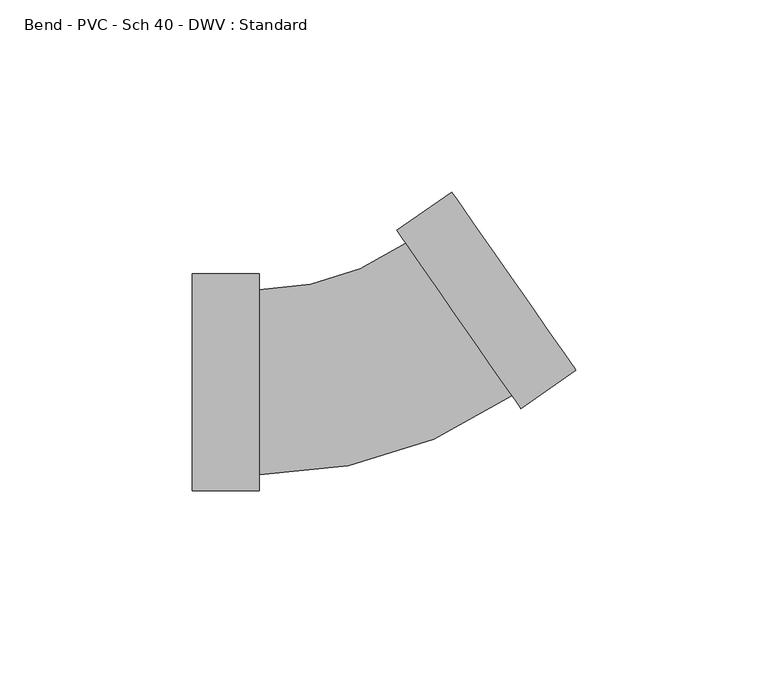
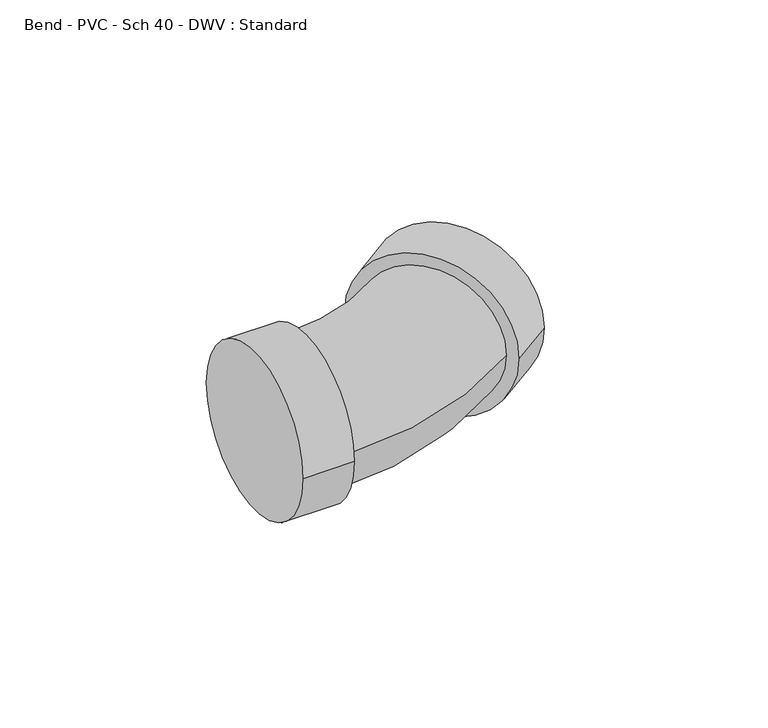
"""IFC4 building model written with IfcOpenShell, lengths in millimetres: pipe fitting geometry, Bend - PVC - Sch 40 - DWV : Standard."""

import ifcopenshell
import ifcopenshell.guid

model = None  # the IFC model being written
_history = None  # IfcOwnerHistory: only IFC2X3 demands one
_inside = {}  # id of a spatial element -> (the spatial element, [elements in it])
_under = {}  # id of a project, library or spatial element -> (it, [spatial elements below it])
_declared = {}  # id of a project -> (the project, [libraries it declares])
_typed = {}  # id of a type object -> (the type object, [elements of that type])
_made_of = {}  # id of a material, layer set ... -> (it, [elements and type objects made of it])


def new_model(schema):
    """Start an empty IFC model of exactly this schema.

    Asked for "IFC4X3", IfcOpenShell would pick the latest addendum, in which some entities
    have other attributes; the version numbers below select the first issue.
    IFC2X3 requires an IfcOwnerHistory on every rooted entity: one is made here for all.
    """
    global model, _history
    if schema == "IFC4X3":
        model = ifcopenshell.file(schema_version=(4, 3, 0, 0))
    else:
        model = ifcopenshell.file(schema=schema)
    _inside.clear()
    _under.clear()
    _declared.clear()
    _typed.clear()
    _made_of.clear()
    _history = None
    if model.schema == "IFC2X3":
        org = make("IfcOrganization", Name="unknown")
        user = make(
            "IfcPersonAndOrganization",
            ThePerson=make("IfcPerson", FamilyName="unknown"),
            TheOrganization=org,
        )
        app = make(
            "IfcApplication",
            ApplicationDeveloper=org,
            Version="unknown",
            ApplicationFullName="unknown",
            ApplicationIdentifier="unknown",
        )
        _history = make(
            "IfcOwnerHistory",
            OwningUser=user,
            OwningApplication=app,
            ChangeAction="ADDED",
            CreationDate=0,
        )
    return model


def make(cls, **values):
    """One entity of the class cls with the attributes given. An attribute that is None is left unset."""
    return model.create_entity(
        cls, **{name: value for name, value in values.items() if value is not None}
    )


def rooted(cls, **values):
    """An entity with a GlobalId (a new one), such as an element, a storey or a relation."""
    return make(cls, GlobalId=ifcopenshell.guid.new(), OwnerHistory=_history, **values)


def si_unit(unit_type, name, prefix=None):
    """IfcSIUnit, for example si_unit("LENGTHUNIT", "METRE", prefix="MILLI")."""
    return make("IfcSIUnit", UnitType=unit_type, Prefix=prefix, Name=name)


def assignment(units):
    """IfcUnitAssignment: the units of a project."""
    return None if units is None else make("IfcUnitAssignment", Units=units)


def point(xyz):
    """IfcCartesianPoint."""
    return None if xyz is None else make("IfcCartesianPoint", Coordinates=xyz)


def direction(xyz):
    """IfcDirection."""
    return None if xyz is None else make("IfcDirection", DirectionRatios=xyz)


def frame(location, z_axis=None, x_axis=None):
    """IfcAxis2Placement3D, a coordinate frame: its origin and axes. An axis left out is left unset."""
    return make(
        "IfcAxis2Placement3D",
        Location=point(location),
        Axis=direction(z_axis),
        RefDirection=direction(x_axis),
    )


def origin():
    """The frame at (0, 0, 0) with its axes left unset."""
    return frame((0.0, 0.0, 0.0))


def place(relative_to, where):
    """IfcLocalPlacement: puts the frame where relative to a parent placement (None: the world)."""
    return make(
        "IfcLocalPlacement", PlacementRelTo=relative_to, RelativePlacement=where
    )


def context(
    kind, dimensions, precision=None, world=None, true_north=None, identifier=None
):
    """IfcGeometricRepresentationContext, for example the 3D "Model" context."""
    return make(
        "IfcGeometricRepresentationContext",
        ContextIdentifier=identifier,
        ContextType=kind,
        CoordinateSpaceDimension=dimensions,
        Precision=precision,
        WorldCoordinateSystem=world,
        TrueNorth=true_north,
    )


def project(units=None, contexts=None):
    """IfcProject with its units and contexts."""
    return rooted(
        "IfcProject",
        Name="project",
        RepresentationContexts=contexts,
        UnitsInContext=assignment(units),
    )


def spatial(cls, under=None, at=None, **own):
    """A site, building, storey or space (cls), placed at a placement, below another one or the project."""
    s = rooted(cls, ObjectPlacement=at, **own)
    if under is not None:
        _under.setdefault(under.id(), (under, []))[1].append(s)
    return s


def circle_curve(where, radius):
    """IfcCircle in the frame where."""
    return make("IfcCircle", Position=where, Radius=radius)


def ellipse_curve(where, semi_axis1, semi_axis2):
    """IfcEllipse in the frame where."""
    return make(
        "IfcEllipse", Position=where, SemiAxis1=semi_axis1, SemiAxis2=semi_axis2
    )


def trimmed(basis, trim1, trim2, sense, master):
    """IfcTrimmedCurve: the piece of a basis curve between two trims."""
    return make(
        "IfcTrimmedCurve",
        BasisCurve=basis,
        Trim1=trim1,
        Trim2=trim2,
        SenseAgreement=sense,
        MasterRepresentation=master,
    )


def shape(context_of_items, identifier, shape_type, items):
    """IfcShapeRepresentation: the items that make up one representation, for example the "Body"."""
    return make(
        "IfcShapeRepresentation",
        ContextOfItems=context_of_items,
        RepresentationIdentifier=identifier,
        RepresentationType=shape_type,
        Items=items,
    )


def source(mapping_origin, context_of_items, identifier, shape_type, items):
    """IfcRepresentationMap: a shape defined once, which mapped items show again and again."""
    return make(
        "IfcRepresentationMap",
        MappingOrigin=mapping_origin,
        MappedRepresentation=shape(context_of_items, identifier, shape_type, items),
    )


def transform(
    local_origin,
    x_axis=None,
    y_axis=None,
    z_axis=None,
    scale=None,
    scale2=None,
    scale3=None,
    uniform=True,
):
    """IfcCartesianTransformationOperator3D, or its non-uniform kind. x_axis, y_axis, z_axis: its Axis1, 2, 3."""
    if uniform:
        return make(
            "IfcCartesianTransformationOperator3D",
            Axis1=direction(x_axis),
            Axis2=direction(y_axis),
            LocalOrigin=point(local_origin),
            Scale=scale,
            Axis3=direction(z_axis),
        )
    return make(
        "IfcCartesianTransformationOperator3DnonUniform",
        Axis1=direction(x_axis),
        Axis2=direction(y_axis),
        LocalOrigin=point(local_origin),
        Scale=scale,
        Axis3=direction(z_axis),
        Scale2=scale2,
        Scale3=scale3,
    )


def mapped(mapping_source, mapping_target):
    """IfcMappedItem: shows the shape of a source again, moved by a transform."""
    return make(
        "IfcMappedItem", MappingSource=mapping_source, MappingTarget=mapping_target
    )


def made_of(thing, what):
    """Note that an element or type object is made of a material, layer set ...; save() writes the relation."""
    if what is not None:
        _made_of.setdefault(what.id(), (what, []))[1].append(thing)
    return thing


def element(
    cls,
    number,
    at=None,
    inside=None,
    cuts=None,
    type_object=None,
    material=None,
    context=None,
    identifier="Body",
    shape_type=None,
    held_by="IfcProductDefinitionShape",
    body=None,
    shapes=None,
    **own,
):
    """One element of the class cls, such as IfcWall. Its Tag is "e" and its number.

    at: its placement. inside: the storey or other place that contains it. cuts: it is an
    opening in that element (IfcRelVoidsElement). A single representation is given by context,
    identifier, shape_type and body (its items); several are given by shapes. held_by: the class
    of the entity that holds the representations. save() writes the other relations.
    """
    e = rooted(cls, Tag="e%d" % number, ObjectPlacement=at, **own)
    if body is not None:
        shapes = [shape(context, identifier, shape_type, body)]
    if shapes is not None:
        e.Representation = make(held_by, Representations=shapes)
    if inside is not None:
        _inside.setdefault(inside.id(), (inside, []))[1].append(e)
    if cuts is not None:
        rooted(
            "IfcRelVoidsElement", RelatingBuildingElement=cuts, RelatedOpeningElement=e
        )
    if type_object is not None:
        _typed.setdefault(type_object.id(), (type_object, []))[1].append(e)
    return made_of(e, material)


def aggregate(whole, parts):
    """IfcRelAggregates: a whole, such as a stair, and the parts it consists of."""
    return rooted("IfcRelAggregates", RelatingObject=whole, RelatedObjects=parts)


def save(model, path):
    """Write the relations noted so far, then the file.

    IfcRelAggregates (storeys below a building ...), IfcRelContainedInSpatialStructure (elements
    in a storey), IfcRelDefinesByType, IfcRelAssociatesMaterial and IfcRelDeclares: one each for
    every whole, place, type object, material and project.
    """
    for whole, parts in _under.values():
        aggregate(whole, parts)
    for where, things in _inside.values():
        rooted(
            "IfcRelContainedInSpatialStructure",
            RelatedElements=things,
            RelatingStructure=where,
        )
    for kind, things in _typed.values():
        rooted("IfcRelDefinesByType", RelatedObjects=things, RelatingType=kind)
    for what, things in _made_of.values():
        rooted("IfcRelAssociatesMaterial", RelatedObjects=things, RelatingMaterial=what)
    for by, libraries in _declared.values():
        rooted("IfcRelDeclares", RelatingContext=by, RelatedDefinitions=libraries)
    model.write(path)


def plane_surface(at):
    """IfcPlane: the flat surface through the origin of the frame at, square to its z axis."""
    return make("IfcPlane", Position=at)


def cylinder_surface(at, radius):
    """IfcCylindricalSurface: all points at the distance radius from the z axis of the frame at."""
    return make("IfcCylindricalSurface", Position=at, Radius=radius)


def revolved_surface(curve, axis_point, axis_direction):
    """IfcSurfaceOfRevolution: the curve turned about the line through axis_point along axis_direction."""
    return make(
        "IfcSurfaceOfRevolution",
        SweptCurve=make("IfcArbitraryOpenProfileDef", ProfileType="CURVE", Curve=curve),
        AxisPosition=make("IfcAxis1Placement", Location=point(axis_point), Axis=direction(axis_direction)),
    )


def advanced_brep(points, edges, surfaces, faces):
    """IfcAdvancedBrep: a solid bounded by faces that lie on surfaces and meet in shared edges.

    An edge is (start, end): straight between two places in points (the first is 0);
    or (start, end, curve); or (start, end, curve, False) where it runs against its curve.
    A face is (place in surfaces, loops), or (place, loops, False) where it looks against
    its surface's normal. A loop lists edges by number (the first is 1), with a minus sign
    where the edge is run from its end to its start. The first loop is the outer one.
    """
    corners = [point(p) for p in points]
    vertices = [make("IfcVertexPoint", VertexGeometry=c) for c in corners]
    made = []
    for start, end, *more in edges:
        made.append(
            make(
                "IfcEdgeCurve",
                EdgeStart=vertices[start],
                EdgeEnd=vertices[end],
                EdgeGeometry=more[0] if more else make("IfcPolyline", Points=[corners[start], corners[end]]),
                SameSense=more[1] if len(more) > 1 else True,
            )
        )
    hull = []
    for where, loops, *sense in faces:
        bounds = []
        for j, loop in enumerate(loops):
            ring = [make("IfcOrientedEdge", EdgeElement=made[abs(k) - 1], Orientation=k > 0) for k in loop]
            bounds.append(
                make(
                    "IfcFaceOuterBound" if j == 0 else "IfcFaceBound",
                    Bound=make("IfcEdgeLoop", EdgeList=ring),
                    Orientation=True,
                )
            )
        hull.append(make("IfcAdvancedFace", Bounds=bounds, FaceSurface=surfaces[where], SameSense=sense[0] if sense else True))
    return make("IfcAdvancedBrep", Outer=make("IfcClosedShell", CfsFaces=hull))


def bend_pvc_sch_40_dwv_standard_cc7cb89c(model_context):
    return source(origin(), model_context, "Body", "AdvancedBrep", [
        advanced_brep(
        [(-46.0248, -28.2829, 0.0), (-46.0248, 28.2829, 0.0), (-28.575, -28.2829, 0.0), (-28.575, 28.2829, 0.0), (-28.575, -24.13, 0.0), (-28.575, 24.13, 0.0), (9.6517344, 36.1335239, 0.0), (37.2396395, -3.4636362, 0.0), (39.6136513, -6.8710761, 0.0), (7.2777225, 39.5409637, 0.0), (53.9311508, 3.1041296, 0.0), (21.595222, 49.5161694, 0.0)],
        [
            (0, 1, circle_curve(frame((-46.0248, 0.0, 0.0), z_axis=(-1.0, 0.0, 0.0), x_axis=(0.0, 1.0, 0.0)), 28.2829)),
            (1, 0, circle_curve(frame((-46.0248, 0.0, 0.0), z_axis=(-1.0, 0.0, 0.0), x_axis=(0.0, 1.0, 0.0)), 28.2829)),
            (2, 3, circle_curve(frame((-28.575, 0.0, 0.0), z_axis=(1.0, 0.0, 0.0), x_axis=(0.0, 1.0, 0.0)), 28.2829)),
            (3, 2, circle_curve(frame((-28.575, 0.0, 0.0), z_axis=(1.0, 0.0, 0.0), x_axis=(0.0, 1.0, 0.0)), 28.2829)),
            (4, 5, circle_curve(frame((-28.575, 0.0, 0.0), z_axis=(-1.0, 0.0, 0.0), x_axis=(0.0, 1.0, 0.0)), 24.13)),
            (5, 4, circle_curve(frame((-28.575, 0.0, 0.0), z_axis=(-1.0, 0.0, 0.0), x_axis=(0.0, 1.0, 0.0)), 24.13)),
            (0, 2),
            (3, 1),
            (6, 5, circle_curve(frame((-28.575, 91.0006882, 0.0), z_axis=(0.0, 0.0, -1.0), x_axis=(0.0, -1.0, 0.0)), 66.8706882)),
            (4, 7, circle_curve(frame((-28.575, 91.0006882, 0.0), z_axis=(0.0, 0.0, 1.0), x_axis=(0.0, -1.0, 0.0)), 115.1306882)),
            (7, 6, circle_curve(frame((23.4456869, 16.3349438, 0.0), z_axis=(-0.8204964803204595, -0.5716515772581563, 0.0), x_axis=(-0.5716515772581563, 0.8204964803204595, 0.0)), 24.13)),
            (6, 7, circle_curve(frame((23.4456869, 16.3349438, 0.0), z_axis=(-0.8204964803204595, -0.5716515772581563, 0.0), x_axis=(-0.5716515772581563, 0.8204964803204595, 0.0)), 24.13)),
            (8, 9, circle_curve(frame((23.4456869, 16.3349438, 0.0), z_axis=(-0.8204964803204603, -0.5716515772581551, 0.0), x_axis=(-0.5716515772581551, 0.8204964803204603, 0.0)), 28.2829)),
            (9, 8, circle_curve(frame((23.4456869, 16.3349438, 0.0), z_axis=(-0.8204964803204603, -0.5716515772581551, 0.0), x_axis=(-0.5716515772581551, 0.8204964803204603, 0.0)), 28.2829)),
            (10, 11, circle_curve(frame((37.7631864, 26.3101495, 0.0), z_axis=(0.8204964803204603, 0.5716515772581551, 0.0), x_axis=(-0.5716515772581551, 0.8204964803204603, 0.0)), 28.2829)),
            (11, 10, circle_curve(frame((37.7631864, 26.3101495, 0.0), z_axis=(0.8204964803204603, 0.5716515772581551, 0.0), x_axis=(-0.5716515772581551, 0.8204964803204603, 0.0)), 28.2829)),
            (8, 10),
            (11, 9),
        ],
        [
            plane_surface(frame((-46.0248, 0.0, 0.0), z_axis=(-1.0, 0.0, 0.0), x_axis=(0.0, 0.0, 1.0))),
            plane_surface(frame((-28.575, 0.0, 0.0), z_axis=(1.0, 0.0, 0.0), x_axis=(0.0, 0.0, 1.0))),
            cylinder_surface(frame((-46.0248, 0.0, 0.0), z_axis=(-1.0, 0.0, 0.0), x_axis=(0.0, 1.0, 0.0)), 28.2829),
            revolved_surface(trimmed(ellipse_curve(frame((-28.575, 0.0, 0.0), z_axis=(-1.0, 0.0, 0.0), x_axis=(0.0, 1.0, 0.0)), 24.13, 24.13), [point((-28.575, -24.13, 0.0))], [point((-28.575, 24.13, 0.0))], True, "CARTESIAN"), (-28.575, 91.0006882, 0.0), (0.0, 0.0, 1.0)),
            revolved_surface(trimmed(ellipse_curve(frame((-28.575, 0.0, 0.0), z_axis=(-1.0, 0.0, 0.0), x_axis=(0.0, 1.0, 0.0)), 24.13, 24.13), [point((-28.575, 24.13, 0.0))], [point((-28.575, -24.13, 0.0))], True, "CARTESIAN"), (-28.575, 91.0006882, 0.0), (0.0, 0.0, 1.0)),
            plane_surface(frame((23.4456869, 16.3349438, 0.0), z_axis=(-0.8204964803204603, -0.5716515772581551, 0.0), x_axis=(0.0, 0.0, 1.0))),
            plane_surface(frame((37.7631864, 26.3101495, 0.0), z_axis=(0.8204964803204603, 0.5716515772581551, 0.0), x_axis=(0.0, 0.0, 1.0))),
            cylinder_surface(frame((23.4456869, 16.3349438, 0.0), z_axis=(-0.8204964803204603, -0.5716515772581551, 0.0), x_axis=(-0.5716515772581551, 0.8204964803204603, 0.0)), 28.2829),
        ],
        [
            (0, [[1, 2]]),
            (1, [[3, 4], [5, 6]]),
            (2, [[-1, 7, -4, 8]]),
            (2, [[-2, -8, -3, -7]]),
            (3, [[9, -5, 10, 11]]),
            (4, [[-9, 12, -10, -6]]),
            (5, [[13, 14], [-11, -12]]),
            (6, [[15, 16]]),
            (7, [[-13, 17, -16, 18]]),
            (7, [[-14, -18, -15, -17]]),
        ],
    ),
    ])


if __name__ == "__main__":
    model = new_model("IFC4")
    model_context = context("Model", 3, world=origin())
    ifc_project = project(units=[si_unit("LENGTHUNIT", "METRE", prefix="MILLI")], contexts=[model_context])
    site = spatial("IfcSite", under=ifc_project)
    building = spatial("IfcBuilding", under=site)
    placement = place(None, origin())
    bend_pvc_sch_40_dwv_standard_shape = bend_pvc_sch_40_dwv_standard_cc7cb89c(model_context)
    element("IfcPipeFitting", 1, ObjectType="Bend - PVC - Sch 40 - DWV : Standard", at=placement, inside=building, context=model_context, shape_type="MappedRepresentation", body=[
        mapped(bend_pvc_sch_40_dwv_standard_shape, transform((0.0, 0.0, 0.0), x_axis=(1.0, 0.0, 0.0), y_axis=(0.0, 1.0, 0.0), z_axis=(0.0, 0.0, 1.0))),
    ])
    save(model, "model.ifc")
